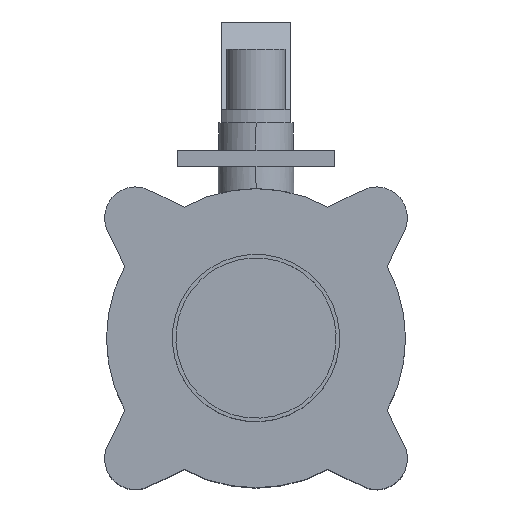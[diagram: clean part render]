
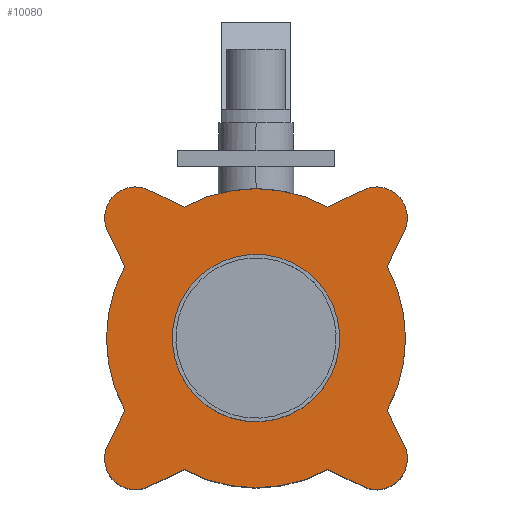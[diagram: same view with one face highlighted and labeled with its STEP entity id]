
A CAD part, top view. The second image highlights one B-rep face of the part: STEP entity #10080.
In plain terms, the highlighted planar face has unit normal (0, 0, 1) as drawn and (0, 1, 0) by its records, which use the part's own axes.
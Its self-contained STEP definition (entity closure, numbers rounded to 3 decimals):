
#1650=CARTESIAN_POINT('',(0.,13.,-41.492));
#1660=DIRECTION('',(-0.946,0.,0.326));
#1670=VECTOR('',#1660,1.);
#1680=LINE('',#1650,#1670);
#1690=CARTESIAN_POINT('',(-65.288,13.,-19.012));
#1700=VERTEX_POINT('',#1690);
#1710=CARTESIAN_POINT('',(-82.058,13.,-13.237));
#1720=VERTEX_POINT('',#1710);
#1730=EDGE_CURVE('',#1700,#1720,#1680,.T.);
#1960=CARTESIAN_POINT('',(77.5,13.,0.));
#1970=DIRECTION('',(0.,-1.,0.));
#1980=DIRECTION('',(0.,0.,-1.));
#1990=AXIS2_PLACEMENT_3D('',#1960,#1970,#1980);
#2000=CIRCLE('',#1990,14.);
#2010=CARTESIAN_POINT('',(82.058,13.,-13.237));
#2020=VERTEX_POINT('',#2010);
#2030=CARTESIAN_POINT('',(82.058,13.,13.237));
#2040=VERTEX_POINT('',#2030);
#2050=EDGE_CURVE('',#2020,#2040,#2000,.T.);
#2280=CARTESIAN_POINT('',(0.,13.,77.5));
#2290=DIRECTION('',(0.,-1.,0.));
#2300=DIRECTION('',(0.,0.,-1.));
#2310=AXIS2_PLACEMENT_3D('',#2280,#2290,#2300);
#2320=CIRCLE('',#2310,14.);
#2330=CARTESIAN_POINT('',(13.237,13.,82.058));
#2340=VERTEX_POINT('',#2330);
#2350=CARTESIAN_POINT('',(-13.237,13.,82.058));
#2360=VERTEX_POINT('',#2350);
#2370=EDGE_CURVE('',#2340,#2360,#2320,.T.);
#2600=CARTESIAN_POINT('',(-77.5,13.,0.));
#2610=DIRECTION('',(0.,-1.,0.));
#2620=DIRECTION('',(0.,0.,-1.));
#2630=AXIS2_PLACEMENT_3D('',#2600,#2610,#2620);
#2640=CIRCLE('',#2630,14.);
#2650=CARTESIAN_POINT('',(-82.058,13.,13.237));
#2660=VERTEX_POINT('',#2650);
#2670=EDGE_CURVE('',#2660,#1720,#2640,.T.);
#4410=CARTESIAN_POINT('',(0.,13.,-41.492));
#4420=DIRECTION('',(0.946,0.,0.326));
#4430=VECTOR('',#4420,1.);
#4440=LINE('',#4410,#4430);
#4450=CARTESIAN_POINT('',(65.288,13.,-19.012));
#4460=VERTEX_POINT('',#4450);
#4470=EDGE_CURVE('',#4460,#2020,#4440,.T.);
#4650=CARTESIAN_POINT('',(-41.492,13.,0.));
#4660=DIRECTION('',(0.326,0.,0.946));
#4670=VECTOR('',#4660,1.);
#4680=LINE('',#4650,#4670);
#4690=CARTESIAN_POINT('',(-19.012,13.,65.288));
#4700=VERTEX_POINT('',#4690);
#4710=EDGE_CURVE('',#4700,#2360,#4680,.T.);
#5360=CARTESIAN_POINT('',(0.,13.,41.492));
#5370=DIRECTION('',(0.946,0.,-0.326));
#5380=VECTOR('',#5370,1.);
#5390=LINE('',#5360,#5380);
#5400=CARTESIAN_POINT('',(65.288,13.,19.012));
#5410=VERTEX_POINT('',#5400);
#5420=EDGE_CURVE('',#5410,#2040,#5390,.T.);
#5600=CARTESIAN_POINT('',(0.,13.,41.492));
#5610=DIRECTION('',(0.946,0.,0.326));
#5620=VECTOR('',#5610,1.);
#5630=LINE('',#5600,#5620);
#5640=CARTESIAN_POINT('',(-65.288,13.,19.012));
#5650=VERTEX_POINT('',#5640);
#5660=EDGE_CURVE('',#2660,#5650,#5630,.T.);
#7350=CARTESIAN_POINT('',(-13.237,13.,-82.058));
#7360=VERTEX_POINT('',#7350);
#7440=CARTESIAN_POINT('',(13.237,13.,-82.058));
#7450=VERTEX_POINT('',#7440);
#7480=CARTESIAN_POINT('',(0.,13.,-77.5));
#7490=DIRECTION('',(0.,-1.,0.));
#7500=DIRECTION('',(0.,0.,-1.));
#7510=AXIS2_PLACEMENT_3D('',#7480,#7490,#7500);
#7520=CIRCLE('',#7510,14.);
#7530=EDGE_CURVE('',#7360,#7450,#7520,.T.);
#7870=CARTESIAN_POINT('',(41.492,13.,0.));
#7880=DIRECTION('',(0.326,0.,0.946));
#7890=VECTOR('',#7880,1.);
#7900=LINE('',#7870,#7890);
#7910=CARTESIAN_POINT('',(19.012,13.,-65.288));
#7920=VERTEX_POINT('',#7910);
#7930=EDGE_CURVE('',#7450,#7920,#7900,.T.);
#8810=CARTESIAN_POINT('',(0.,13.,0.));
#8820=DIRECTION('',(0.,-1.,0.));
#8830=DIRECTION('',(0.,0.,-1.));
#8840=AXIS2_PLACEMENT_3D('',#8810,#8820,#8830);
#8850=CIRCLE('',#8840,68.);
#8860=EDGE_CURVE('',#7920,#4460,#8850,.T.);
#9020=CARTESIAN_POINT('',(19.012,13.,65.288));
#9030=VERTEX_POINT('',#9020);
#9060=CARTESIAN_POINT('',(0.,13.,0.));
#9070=DIRECTION('',(0.,-1.,0.));
#9080=DIRECTION('',(0.,0.,-1.));
#9090=AXIS2_PLACEMENT_3D('',#9060,#9070,#9080);
#9100=CIRCLE('',#9090,68.);
#9110=EDGE_CURVE('',#5410,#9030,#9100,.T.);
#9240=CARTESIAN_POINT('',(0.,13.,0.));
#9250=DIRECTION('',(0.,-1.,0.));
#9260=DIRECTION('',(0.,0.,-1.));
#9270=AXIS2_PLACEMENT_3D('',#9240,#9250,#9260);
#9280=CIRCLE('',#9270,68.);
#9290=EDGE_CURVE('',#4700,#5650,#9280,.T.);
#9450=CARTESIAN_POINT('',(-19.012,13.,-65.288));
#9460=VERTEX_POINT('',#9450);
#9490=CARTESIAN_POINT('',(0.,13.,0.));
#9500=DIRECTION('',(0.,-1.,0.));
#9510=DIRECTION('',(0.,0.,-1.));
#9520=AXIS2_PLACEMENT_3D('',#9490,#9500,#9510);
#9530=CIRCLE('',#9520,68.);
#9540=EDGE_CURVE('',#1700,#9460,#9530,.T.);
#9600=CARTESIAN_POINT('',(0.,13.,0.));
#9610=DIRECTION('',(0.,1.,0.));
#9620=DIRECTION('',(0.,0.,1.));
#9630=AXIS2_PLACEMENT_3D('',#9600,#9610,#9620);
#9640=PLANE('',#9630);
#9650=ORIENTED_EDGE('',*,*,#2050,.F.);
#9660=ORIENTED_EDGE('',*,*,#5420,.T.);
#9670=ORIENTED_EDGE('',*,*,#9110,.F.);
#9680=CARTESIAN_POINT('',(41.492,13.,0.));
#9690=DIRECTION('',(0.326,0.,-0.946));
#9700=VECTOR('',#9690,1.);
#9710=LINE('',#9680,#9700);
#9720=EDGE_CURVE('',#2340,#9030,#9710,.T.);
#9730=ORIENTED_EDGE('',*,*,#9720,.T.);
#9740=ORIENTED_EDGE('',*,*,#2370,.F.);
#9750=ORIENTED_EDGE('',*,*,#4710,.T.);
#9760=ORIENTED_EDGE('',*,*,#9290,.F.);
#9770=ORIENTED_EDGE('',*,*,#5660,.T.);
#9780=ORIENTED_EDGE('',*,*,#2670,.F.);
#9790=ORIENTED_EDGE('',*,*,#1730,.T.);
#9800=ORIENTED_EDGE('',*,*,#9540,.F.);
#9810=CARTESIAN_POINT('',(-41.492,13.,0.));
#9820=DIRECTION('',(0.326,0.,-0.946));
#9830=VECTOR('',#9820,1.);
#9840=LINE('',#9810,#9830);
#9850=EDGE_CURVE('',#9460,#7360,#9840,.T.);
#9860=ORIENTED_EDGE('',*,*,#9850,.F.);
#9870=ORIENTED_EDGE('',*,*,#7530,.F.);
#9880=ORIENTED_EDGE('',*,*,#7930,.F.);
#9890=ORIENTED_EDGE('',*,*,#8860,.F.);
#9900=ORIENTED_EDGE('',*,*,#4470,.F.);
#9910=EDGE_LOOP('',(#9900,#9890,#9880,#9870,#9860,#9800,#9790,#9780,
#9770,#9760,#9750,#9740,#9730,#9670,#9660,#9650));
#9920=FACE_OUTER_BOUND('',#9910,.T.);
#9930=CARTESIAN_POINT('',(0.,13.,0.
));
#9940=DIRECTION('',(0.,1.,0.));
#9950=DIRECTION('',(-0.622,0.,
-0.783));
#9960=AXIS2_PLACEMENT_3D('',#9930,#9940,#9950);
#9970=CIRCLE('',#9960,38.05);
#9980=CARTESIAN_POINT('',(-23.659,13.,
-29.8));
#9990=VERTEX_POINT('',#9980);
#10000=CARTESIAN_POINT('',(23.659,13.,29.8));
#10010=VERTEX_POINT('',#10000);
#10020=EDGE_CURVE('',#9990,#10010,#9970,.T.);
#10030=ORIENTED_EDGE('',*,*,#10020,.F.);
#10040=EDGE_CURVE('',#10010,#9990,#9970,.T.);
#10050=ORIENTED_EDGE('',*,*,#10040,.F.);
#10060=EDGE_LOOP('',(#10050,#10030));
#10070=FACE_BOUND('',#10060,.T.);
#10080=ADVANCED_FACE('',(#9920,#10070),#9640,.T.);
